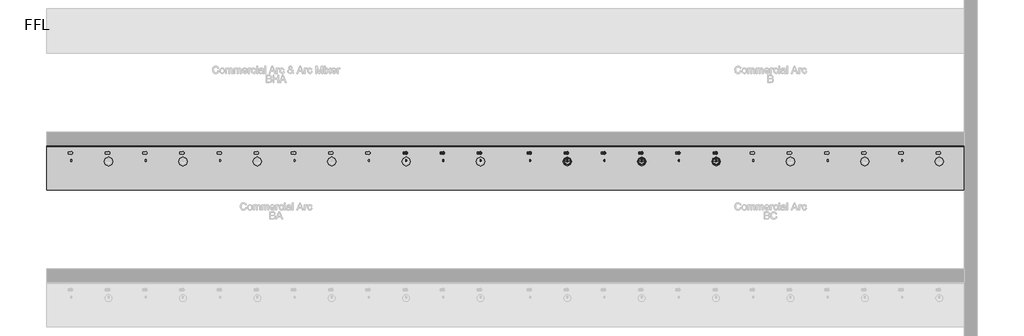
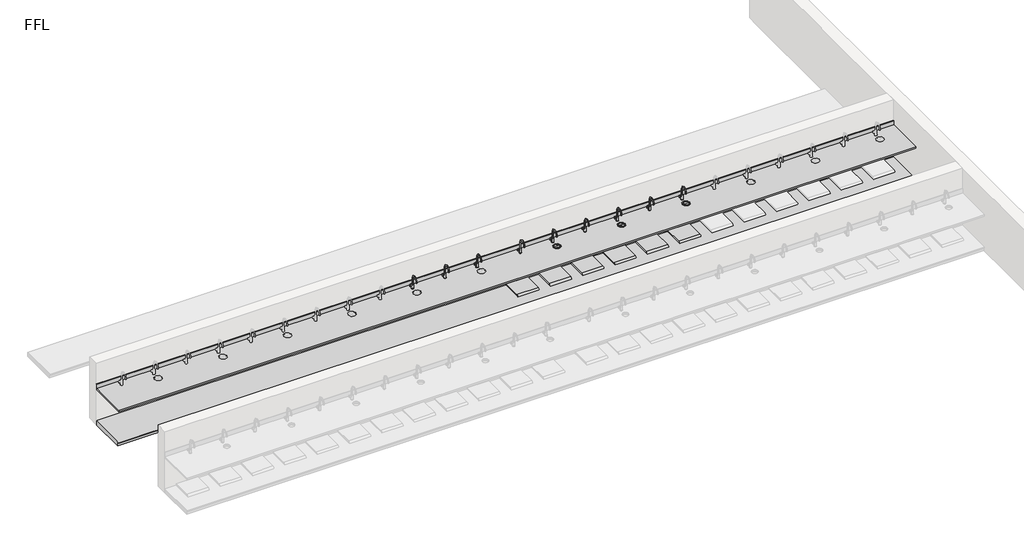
# One storey, part 5 of 10: 21 flow terminals, 2 furniture elements.
"""IFC4 building model written with IfcOpenShell, lengths in millimetres."""

from ifc_helpers import new_model, si_unit, frame, origin, place, context, project, spatial, polyline, circle_curve, transform, mapped, element, save
from ifc_brep_helpers import plane_surface, revolved_surface, advanced_brep
from components import flow_terminal_100_people_matte_black_0dc622b1, bcs_and_bc_6de74493, bright_chrome_743c02cf, bright_chrome_7ff5033f, generic_plinth_900mm_f287d53f

model = new_model("IFC4")

# Units and contexts
model_context = context("Model", 3, world=origin())
ifc_project = project(units=[si_unit("LENGTHUNIT", "METRE", prefix="MILLI")], contexts=[model_context])

# Site, building, storey
site = spatial("IfcSite", under=ifc_project)
building = spatial("IfcBuilding", under=site)
storey = spatial("IfcBuildingStorey", under=building, Name="FFL", Elevation=0.0)

# Flow terminals
placement = place(None, origin())
flow_terminal_100_people_matte_black_shape = flow_terminal_100_people_matte_black_0dc622b1(model_context)
element("IfcFlowTerminal", 1, ObjectType="PlumFixt_Zip Commercial_Arc_BA : 100 People - Nickel", at=placement, inside=storey, context=model_context, shape_type="MappedRepresentation", body=[
    mapped(flow_terminal_100_people_matte_black_shape, transform((279.2647071, 2062.7393304, 0.0), x_axis=(1.0, 0.0, 0.0), y_axis=(0.0, 1.0, 0.0), z_axis=(0.0, 0.0, 1.0))),
])
element("IfcFlowTerminal", 2, ObjectType="PlumFixt_Zip Commercial_Arc_BA : 100 People - Platinum", at=placement, inside=storey, context=model_context, shape_type="MappedRepresentation", body=[
    mapped(flow_terminal_100_people_matte_black_shape, transform((1029.2647071, 2062.7393304, 0.0), x_axis=(1.0, 0.0, 0.0), y_axis=(0.0, 1.0, 0.0), z_axis=(0.0, 0.0, 1.0))),
])
element("IfcFlowTerminal", 3, ObjectType="PlumFixt_Zip Commercial_Arc_BA : 100 People - Rose Gold", at=placement, inside=storey, context=model_context, shape_type="MappedRepresentation", body=[
    mapped(flow_terminal_100_people_matte_black_shape, transform((1779.2647071, 2062.7393304, 0.0), x_axis=(1.0, 0.0, 0.0), y_axis=(0.0, 1.0, 0.0), z_axis=(0.0, 0.0, 1.0))),
])
bcs_and_bc_shape = bcs_and_bc_6de74493(model_context)
element("IfcFlowTerminal", 4, ObjectType="z_PlumFixt_Zip_Vent Tray : BCS and BC", at=placement, inside=storey, context=model_context, shape_type="MappedRepresentation", body=[
    mapped(bcs_and_bc_shape, transform((2779.2647071, 2185.7393304, 100.0), x_axis=(1.0, 0.0, 0.0), y_axis=(0.0, 1.0, 0.0), z_axis=(0.0, 0.0, 1.0))),
])
element("IfcFlowTerminal", 5, ObjectType="z_PlumFixt_Zip_Vent Tray : BCS and BC", at=placement, inside=storey, context=model_context, shape_type="MappedRepresentation", body=[
    mapped(bcs_and_bc_shape, transform((3529.2647071, 2185.7393304, 100.0), x_axis=(1.0, 0.0, 0.0), y_axis=(0.0, 1.0, 0.0), z_axis=(0.0, 0.0, 1.0))),
])
element("IfcFlowTerminal", 6, ObjectType="z_PlumFixt_Zip_Vent Tray : BCS and BC", at=placement, inside=storey, context=model_context, shape_type="MappedRepresentation", body=[
    mapped(bcs_and_bc_shape, transform((4279.2647071, 2185.7393304, 100.0), x_axis=(1.0, 0.0, 0.0), y_axis=(0.0, 1.0, 0.0), z_axis=(0.0, 0.0, 1.0))),
])
element("IfcFlowTerminal", 7, ObjectType="z_PlumFixt_Zip_Vent Tray : BCS and BC", at=placement, inside=storey, context=model_context, shape_type="MappedRepresentation", body=[
    mapped(bcs_and_bc_shape, transform((5029.2647071, 2185.7393304, 100.0), x_axis=(1.0, 0.0, 0.0), y_axis=(0.0, 1.0, 0.0), z_axis=(0.0, 0.0, 1.0))),
])
element("IfcFlowTerminal", 8, ObjectType="z_PlumFixt_Zip_Vent Tray : BCS and BC", at=placement, inside=storey, context=model_context, shape_type="MappedRepresentation", body=[
    mapped(bcs_and_bc_shape, transform((5779.2647071, 2185.7393304, 100.0), x_axis=(1.0, 0.0, 0.0), y_axis=(0.0, 1.0, 0.0), z_axis=(0.0, 0.0, 1.0))),
])
element("IfcFlowTerminal", 9, ObjectType="z_PlumFixt_Zip_Vent Tray : BCS and BC", at=placement, inside=storey, context=model_context, shape_type="MappedRepresentation", body=[
    mapped(bcs_and_bc_shape, transform((6529.2647071, 2185.7393304, 100.0), x_axis=(1.0, 0.0, 0.0), y_axis=(0.0, 1.0, 0.0), z_axis=(0.0, 0.0, 1.0))),
])
bright_chrome_shape = bright_chrome_743c02cf(model_context)
element("IfcFlowTerminal", 10, ObjectType="z_PlumFixt_Zip_Font : Bright Chrome", at=placement, inside=storey, context=model_context, shape_type="MappedRepresentation", body=[
    mapped(bright_chrome_shape, transform((3529.2647071, 1991.2393304, 900.0), x_axis=(1.0000000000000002, 0.0, 0.0), y_axis=(0.0, 1.0000000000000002, 0.0), z_axis=(0.0, 0.0, 1.0))),
])
element("IfcFlowTerminal", 11, ObjectType="z_PlumFixt_Zip_Font : Bright Chrome", at=placement, inside=storey, context=model_context, shape_type="MappedRepresentation", body=[
    mapped(bright_chrome_shape, transform((5029.2647071, 1991.2393304, 900.0), x_axis=(1.0000000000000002, 0.0, 0.0), y_axis=(0.0, 1.0000000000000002, 0.0), z_axis=(0.0, 0.0, 1.0))),
])
element("IfcFlowTerminal", 12, ObjectType="z_PlumFixt_Zip_Font : Bright Chrome", at=placement, inside=storey, context=model_context, shape_type="MappedRepresentation", body=[
    mapped(bright_chrome_shape, transform((6529.2647071, 1991.2393304, 900.0), x_axis=(1.0000000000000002, 0.0, 0.0), y_axis=(0.0, 1.0000000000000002, 0.0), z_axis=(0.0, 0.0, 1.0))),
])
bright_chrome_2_shape = bright_chrome_7ff5033f(model_context)
element("IfcFlowTerminal", 13, ObjectType="z_PlumFixt_Zip_Arc : Bright Chrome", at=placement, inside=storey, context=model_context, shape_type="MappedRepresentation", body=[
    mapped(bright_chrome_2_shape, transform((2762.2647071, 2090.7393304, 900.0), x_axis=(1.0000000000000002, 0.0, 0.0), y_axis=(0.0, 1.0000000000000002, 0.0), z_axis=(0.0, 0.0, 1.0))),
])
element("IfcFlowTerminal", 14, ObjectType="z_PlumFixt_Zip_Arc : Brushed Chrome", at=placement, inside=storey, context=model_context, shape_type="MappedRepresentation", body=[
    mapped(bright_chrome_2_shape, transform((3512.2647071, 2090.7393304, 900.0), x_axis=(1.0000000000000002, 0.0, 0.0), y_axis=(0.0, 1.0000000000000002, 0.0), z_axis=(0.0, 0.0, 1.0))),
])
element("IfcFlowTerminal", 15, ObjectType="z_PlumFixt_Zip_Arc : Brushed Gold", at=placement, inside=storey, context=model_context, shape_type="MappedRepresentation", body=[
    mapped(bright_chrome_2_shape, transform((4262.2647071, 2090.7393304, 900.0), x_axis=(1.0000000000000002, 0.0, 0.0), y_axis=(0.0, 1.0000000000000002, 0.0), z_axis=(0.0, 0.0, 1.0))),
])
element("IfcFlowTerminal", 16, ObjectType="z_PlumFixt_Zip_Arc : Brushed Nickel", at=placement, inside=storey, context=model_context, shape_type="MappedRepresentation", body=[
    mapped(bright_chrome_2_shape, transform((5012.2647071, 2090.7393304, 900.0), x_axis=(1.0000000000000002, 0.0, 0.0), y_axis=(0.0, 1.0000000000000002, 0.0), z_axis=(0.0, 0.0, 1.0))),
])
element("IfcFlowTerminal", 17, ObjectType="z_PlumFixt_Zip_Arc : Brushed Rose Gold", at=placement, inside=storey, context=model_context, shape_type="MappedRepresentation", body=[
    mapped(bright_chrome_2_shape, transform((5762.2647071, 2090.7393304, 900.0), x_axis=(1.0000000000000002, 0.0, 0.0), y_axis=(0.0, 1.0000000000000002, 0.0), z_axis=(0.0, 0.0, 1.0))),
])
element("IfcFlowTerminal", 18, ObjectType="z_PlumFixt_Zip_Arc : Gloss Black", at=placement, inside=storey, context=model_context, shape_type="MappedRepresentation", body=[
    mapped(bright_chrome_2_shape, transform((6512.2647071, 2090.7393304, 900.0), x_axis=(1.0000000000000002, 0.0, 0.0), y_axis=(0.0, 1.0000000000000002, 0.0), z_axis=(0.0, 0.0, 1.0))),
])
element("IfcFlowTerminal", 19, ObjectType="z_PlumFixt_Zip_Arc : Nickel", at=placement, inside=storey, context=model_context, shape_type="MappedRepresentation", body=[
    mapped(bright_chrome_2_shape, transform((262.2647071, 2090.7393304, 900.0), x_axis=(1.0000000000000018, 0.0, 0.0), y_axis=(0.0, 1.0000000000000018, 0.0), z_axis=(0.0, 0.0, 1.0))),
])
element("IfcFlowTerminal", 20, ObjectType="z_PlumFixt_Zip_Arc : Platinum", at=placement, inside=storey, context=model_context, shape_type="MappedRepresentation", body=[
    mapped(bright_chrome_2_shape, transform((1012.2647071, 2090.7393304, 900.0), x_axis=(1.0000000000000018, 0.0, 0.0), y_axis=(0.0, 1.0000000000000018, 0.0), z_axis=(0.0, 0.0, 1.0))),
])
element("IfcFlowTerminal", 21, ObjectType="z_PlumFixt_Zip_Arc : Rose Gold", at=placement, inside=storey, context=model_context, shape_type="MappedRepresentation", body=[
    mapped(bright_chrome_2_shape, transform((1762.2647071, 2090.7393304, 900.0), x_axis=(1.0000000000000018, 0.0, 0.0), y_axis=(0.0, 1.0000000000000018, 0.0), z_axis=(0.0, 0.0, 1.0))),
])

# Furniture
element("IfcFurniture", 22, ObjectType="Counter Top : 900mm Depth", at=placement, inside=storey, context=model_context, shape_type="AdvancedBrep", body=[
    advanced_brep(
    [(-6969.7352929, 1428.2393304, 900.0), (11530.2647071, 1428.2393304, 900.0), (11530.2647071, 2309.1893304, 900.0), (-6969.7352929, 2309.1893304, 900.0), (-6493.7352929, 2178.2393304, 900.0), (-6445.7352929, 2178.2393304, 900.0), (2756.2647071, 2178.2393304, 900.0), (2804.2647071, 2178.2393304, 900.0), (-5743.7352929, 2178.2393304, 900.0), (-5695.7352929, 2178.2393304, 900.0), (-5651.5352929, 2006.2496462, 900.0), (-5787.9352929, 2006.2496462, 900.0), (-4993.7352929, 2178.2393304, 900.0), (-4945.7352929, 2178.2393304, 900.0), (-4243.7352929, 2178.2393304, 900.0), (-4195.7352929, 2178.2393304, 900.0), (-4151.5352929, 2006.2496462, 900.0), (-4287.9352929, 2006.2496462, 900.0), (-3493.7352929, 2178.2393304, 900.0), (-3445.7352929, 2178.2393304, 900.0), (-1993.7352929, 2178.2393304, 900.0), (-1945.7352929, 2178.2393304, 900.0), (-1243.7352929, 2178.2393304, 900.0), (-1195.7352929, 2178.2393304, 900.0), (-1151.5352929, 2006.2496462, 900.0), (-1287.9352929, 2006.2496462, 900.0), (-493.7352929, 2178.2393304, 900.0), (-445.7352929, 2178.2393304, 900.0), (256.2647071, 2178.2393304, 900.0), (304.2647071, 2178.2393304, 900.0), (348.4647071, 2006.2496462, 900.0), (212.0647071, 2006.2496462, 900.0), (1006.2647071, 2178.2393304, 900.0), (1054.2647071, 2178.2393304, 900.0), (1756.2647071, 2178.2393304, 900.0), (1804.2647071, 2178.2393304, 900.0), (1848.4647071, 2006.2496462, 900.0), (1712.0647071, 2006.2496462, 900.0), (3506.2647071, 2178.2393304, 900.0), (3554.2647071, 2178.2393304, 900.0), (3598.4647071, 2006.2496462, 900.0), (3462.0647071, 2006.2496462, 900.0), (4256.2647071, 2178.2393304, 900.0), (4304.2647071, 2178.2393304, 900.0), (5006.2647071, 2178.2393304, 900.0), (5054.2647071, 2178.2393304, 900.0), (5098.4647071, 2006.2496462, 900.0), (4962.0647071, 2006.2496462, 900.0), (5756.2647071, 2178.2393304, 900.0), (5804.2647071, 2178.2393304, 900.0), (11006.2647071, 2178.2393304, 900.0), (11054.2647071, 2178.2393304, 900.0), (11098.4647071, 2006.2496462, 900.0), (10962.0647071, 2006.2496462, 900.0), (10256.2647071, 2178.2393304, 900.0), (10304.2647071, 2178.2393304, 900.0), (9506.2647071, 2178.2393304, 900.0), (9554.2647071, 2178.2393304, 900.0), (9598.4647071, 2006.2496462, 900.0), (9462.0647071, 2006.2496462, 900.0), (8756.2647071, 2178.2393304, 900.0), (8804.2647071, 2178.2393304, 900.0), (8006.2647071, 2178.2393304, 900.0), (8054.2647071, 2178.2393304, 900.0), (8098.4647071, 2006.2496462, 900.0), (7962.0647071, 2006.2496462, 900.0), (7256.2647071, 2178.2393304, 900.0), (7304.2647071, 2178.2393304, 900.0), (6506.2647071, 2178.2393304, 900.0), (6554.2647071, 2178.2393304, 900.0), (6598.4647071, 2006.2496462, 900.0), (6462.0647071, 2006.2496462, 900.0), (-2743.7352929, 2178.2393304, 900.0), (-2695.7352929, 2178.2393304, 900.0), (-2651.5352929, 2006.2496462, 900.0), (-2787.9352929, 2006.2496462, 900.0), (11530.2647071, 2328.2393304, 860.0), (11530.2647071, 1428.2393304, 860.0), (-6969.7352929, 1428.2393304, 860.0), (-6969.7352929, 2328.2393304, 860.0), (-6445.7352929, 2178.2393304, 860.0), (-6493.7352929, 2178.2393304, 860.0), (2804.2647071, 2178.2393304, 860.0), (2756.2647071, 2178.2393304, 860.0), (-5695.7352929, 2178.2393304, 860.0), (-5743.7352929, 2178.2393304, 860.0), (-5787.9352929, 2006.2496462, 860.0), (-5651.5352929, 2006.2496462, 860.0), (-4945.7352929, 2178.2393304, 860.0), (-4993.7352929, 2178.2393304, 860.0), (-4195.7352929, 2178.2393304, 860.0), (-4243.7352929, 2178.2393304, 860.0), (-4287.9352929, 2006.2496462, 860.0), (-4151.5352929, 2006.2496462, 860.0), (-3445.7352929, 2178.2393304, 860.0), (-3493.7352929, 2178.2393304, 860.0), (-1945.7352929, 2178.2393304, 860.0), (-1993.7352929, 2178.2393304, 860.0), (-1195.7352929, 2178.2393304, 860.0), (-1243.7352929, 2178.2393304, 860.0), (-1287.9352929, 2006.2496462, 860.0), (-1151.5352929, 2006.2496462, 860.0), (-445.7352929, 2178.2393304, 860.0), (-493.7352929, 2178.2393304, 860.0), (304.2647071, 2178.2393304, 860.0), (256.2647071, 2178.2393304, 860.0), (212.0647071, 2006.2496462, 860.0), (348.4647071, 2006.2496462, 860.0), (1054.2647071, 2178.2393304, 860.0), (1006.2647071, 2178.2393304, 860.0), (1804.2647071, 2178.2393304, 860.0), (1756.2647071, 2178.2393304, 860.0), (1712.0647071, 2006.2496462, 860.0), (1848.4647071, 2006.2496462, 860.0), (3554.2647071, 2178.2393304, 860.0), (3506.2647071, 2178.2393304, 860.0), (3462.0647071, 2006.2496462, 860.0), (3598.4647071, 2006.2496462, 860.0), (4304.2647071, 2178.2393304, 860.0), (4256.2647071, 2178.2393304, 860.0), (5054.2647071, 2178.2393304, 860.0), (5006.2647071, 2178.2393304, 860.0), (4962.0647071, 2006.2496462, 860.0), (5098.4647071, 2006.2496462, 860.0), (5804.2647071, 2178.2393304, 860.0), (5756.2647071, 2178.2393304, 860.0), (11054.2647071, 2178.2393304, 860.0), (11006.2647071, 2178.2393304, 860.0), (10962.0647071, 2006.2496462, 860.0), (11098.4647071, 2006.2496462, 860.0), (10304.2647071, 2178.2393304, 860.0), (10256.2647071, 2178.2393304, 860.0), (9554.2647071, 2178.2393304, 860.0), (9506.2647071, 2178.2393304, 860.0), (9462.0647071, 2006.2496462, 860.0), (9598.4647071, 2006.2496462, 860.0), (8804.2647071, 2178.2393304, 860.0), (8756.2647071, 2178.2393304, 860.0), (8054.2647071, 2178.2393304, 860.0), (8006.2647071, 2178.2393304, 860.0), (7962.0647071, 2006.2496462, 860.0), (8098.4647071, 2006.2496462, 860.0), (7304.2647071, 2178.2393304, 860.0), (7256.2647071, 2178.2393304, 860.0), (6554.2647071, 2178.2393304, 860.0), (6506.2647071, 2178.2393304, 860.0), (6462.0647071, 2006.2496462, 860.0), (6598.4647071, 2006.2496462, 860.0), (-2695.7352929, 2178.2393304, 860.0), (-2743.7352929, 2178.2393304, 860.0), (-2787.9352929, 2006.2496462, 860.0), (-2651.5352929, 2006.2496462, 860.0), (-6969.7352929, 2328.2393304, 1001.6), (11530.2647071, 2328.2393304, 1001.6), (-6969.7352929, 2309.1893304, 1001.6), (11530.2647071, 2309.1893304, 1001.6)],
    [
        (0, 1),
        (1, 2),
        (2, 3),
        (3, 0),
        (4, 5, circle_curve(frame((-6469.7352929, 2178.2393304, 900.0), z_axis=(0.0, 0.0, -1.0), x_axis=(-1.0000000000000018, 0.0, 0.0)), 24.0)),
        (5, 4, circle_curve(frame((-6469.7352929, 2178.2393304, 900.0), z_axis=(0.0, 0.0, -1.0), x_axis=(-1.0000000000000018, 0.0, 0.0)), 24.0)),
        (6, 7, circle_curve(frame((2780.2647071, 2178.2393304, 900.0), z_axis=(0.0, 0.0, -1.0), x_axis=(-1.0000000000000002, 0.0, 0.0)), 24.0)),
        (7, 6, circle_curve(frame((2780.2647071, 2178.2393304, 900.0), z_axis=(0.0, 0.0, -1.0), x_axis=(-1.0000000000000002, 0.0, 0.0)), 24.0)),
        (8, 9, circle_curve(frame((-5719.7352929, 2178.2393304, 900.0), z_axis=(0.0, 0.0, -1.0), x_axis=(-1.0000000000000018, 0.0, 0.0)), 24.0)),
        (9, 8, circle_curve(frame((-5719.7352929, 2178.2393304, 900.0), z_axis=(0.0, 0.0, -1.0), x_axis=(-1.0000000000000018, 0.0, 0.0)), 24.0)),
        (10, 11, circle_curve(frame((-5719.7352929, 2006.2496462, 900.0), z_axis=(0.0, 0.0, -1.0), x_axis=(-1.0000000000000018, 0.0, 0.0)), 68.2)),
        (11, 10, circle_curve(frame((-5719.7352929, 2006.2496462, 900.0), z_axis=(0.0, 0.0, -1.0), x_axis=(-1.0000000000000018, 0.0, 0.0)), 68.2)),
        (12, 13, circle_curve(frame((-4969.7352929, 2178.2393304, 900.0), z_axis=(0.0, 0.0, -1.0), x_axis=(-1.0000000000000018, 0.0, 0.0)), 24.0)),
        (13, 12, circle_curve(frame((-4969.7352929, 2178.2393304, 900.0), z_axis=(0.0, 0.0, -1.0), x_axis=(-1.0000000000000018, 0.0, 0.0)), 24.0)),
        (14, 15, circle_curve(frame((-4219.7352929, 2178.2393304, 900.0), z_axis=(0.0, 0.0, -1.0), x_axis=(-1.0000000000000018, 0.0, 0.0)), 24.0)),
        (15, 14, circle_curve(frame((-4219.7352929, 2178.2393304, 900.0), z_axis=(0.0, 0.0, -1.0), x_axis=(-1.0000000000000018, 0.0, 0.0)), 24.0)),
        (16, 17, circle_curve(frame((-4219.7352929, 2006.2496462, 900.0), z_axis=(0.0, 0.0, -1.0), x_axis=(-1.0000000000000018, 0.0, 0.0)), 68.2)),
        (17, 16, circle_curve(frame((-4219.7352929, 2006.2496462, 900.0), z_axis=(0.0, 0.0, -1.0), x_axis=(-1.0000000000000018, 0.0, 0.0)), 68.2)),
        (18, 19, circle_curve(frame((-3469.7352929, 2178.2393304, 900.0), z_axis=(0.0, 0.0, -1.0), x_axis=(-1.0000000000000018, 0.0, 0.0)), 24.0)),
        (19, 18, circle_curve(frame((-3469.7352929, 2178.2393304, 900.0), z_axis=(0.0, 0.0, -1.0), x_axis=(-1.0000000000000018, 0.0, 0.0)), 24.0)),
        (20, 21, circle_curve(frame((-1969.7352929, 2178.2393304, 900.0), z_axis=(0.0, 0.0, -1.0), x_axis=(-1.0000000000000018, 0.0, 0.0)), 24.0)),
        (21, 20, circle_curve(frame((-1969.7352929, 2178.2393304, 900.0), z_axis=(0.0, 0.0, -1.0), x_axis=(-1.0000000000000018, 0.0, 0.0)), 24.0)),
        (22, 23, circle_curve(frame((-1219.7352929, 2178.2393304, 900.0), z_axis=(0.0, 0.0, -1.0), x_axis=(-1.0000000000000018, 0.0, 0.0)), 24.0)),
        (23, 22, circle_curve(frame((-1219.7352929, 2178.2393304, 900.0), z_axis=(0.0, 0.0, -1.0), x_axis=(-1.0000000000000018, 0.0, 0.0)), 24.0)),
        (24, 25, circle_curve(frame((-1219.7352929, 2006.2496462, 900.0), z_axis=(0.0, 0.0, -1.0), x_axis=(-1.0000000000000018, 0.0, 0.0)), 68.2)),
        (25, 24, circle_curve(frame((-1219.7352929, 2006.2496462, 900.0), z_axis=(0.0, 0.0, -1.0), x_axis=(-1.0000000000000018, 0.0, 0.0)), 68.2)),
        (26, 27, circle_curve(frame((-469.7352929, 2178.2393304, 900.0), z_axis=(0.0, 0.0, -1.0), x_axis=(-1.0000000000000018, 0.0, 0.0)), 24.0)),
        (27, 26, circle_curve(frame((-469.7352929, 2178.2393304, 900.0), z_axis=(0.0, 0.0, -1.0), x_axis=(-1.0000000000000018, 0.0, 0.0)), 24.0)),
        (28, 29, circle_curve(frame((280.2647071, 2178.2393304, 900.0), z_axis=(0.0, 0.0, -1.0), x_axis=(-1.0000000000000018, 0.0, 0.0)), 24.0)),
        (29, 28, circle_curve(frame((280.2647071, 2178.2393304, 900.0), z_axis=(0.0, 0.0, -1.0), x_axis=(-1.0000000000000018, 0.0, 0.0)), 24.0)),
        (30, 31, circle_curve(frame((280.2647071, 2006.2496462, 900.0), z_axis=(0.0, 0.0, -1.0), x_axis=(-1.0000000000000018, 0.0, 0.0)), 68.2)),
        (31, 30, circle_curve(frame((280.2647071, 2006.2496462, 900.0), z_axis=(0.0, 0.0, -1.0), x_axis=(-1.0000000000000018, 0.0, 0.0)), 68.2)),
        (32, 33, circle_curve(frame((1030.2647071, 2178.2393304, 900.0), z_axis=(0.0, 0.0, -1.0), x_axis=(-1.0000000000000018, 0.0, 0.0)), 24.0)),
        (33, 32, circle_curve(frame((1030.2647071, 2178.2393304, 900.0), z_axis=(0.0, 0.0, -1.0), x_axis=(-1.0000000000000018, 0.0, 0.0)), 24.0)),
        (34, 35, circle_curve(frame((1780.2647071, 2178.2393304, 900.0), z_axis=(0.0, 0.0, -1.0), x_axis=(-1.0000000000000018, 0.0, 0.0)), 24.0)),
        (35, 34, circle_curve(frame((1780.2647071, 2178.2393304, 900.0), z_axis=(0.0, 0.0, -1.0), x_axis=(-1.0000000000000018, 0.0, 0.0)), 24.0)),
        (36, 37, circle_curve(frame((1780.2647071, 2006.2496462, 900.0), z_axis=(0.0, 0.0, -1.0), x_axis=(-1.0000000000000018, 0.0, 0.0)), 68.2)),
        (37, 36, circle_curve(frame((1780.2647071, 2006.2496462, 900.0), z_axis=(0.0, 0.0, -1.0), x_axis=(-1.0000000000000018, 0.0, 0.0)), 68.2)),
        (38, 39, circle_curve(frame((3530.2647071, 2178.2393304, 900.0), z_axis=(0.0, 0.0, -1.0), x_axis=(-1.0000000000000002, 0.0, 0.0)), 24.0)),
        (39, 38, circle_curve(frame((3530.2647071, 2178.2393304, 900.0), z_axis=(0.0, 0.0, -1.0), x_axis=(-1.0000000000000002, 0.0, 0.0)), 24.0)),
        (40, 41, circle_curve(frame((3530.2647071, 2006.2496462, 900.0), z_axis=(0.0, 0.0, -1.0), x_axis=(-1.0000000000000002, 0.0, 0.0)), 68.2)),
        (41, 40, circle_curve(frame((3530.2647071, 2006.2496462, 900.0), z_axis=(0.0, 0.0, -1.0), x_axis=(-1.0000000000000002, 0.0, 0.0)), 68.2)),
        (42, 43, circle_curve(frame((4280.2647071, 2178.2393304, 900.0), z_axis=(0.0, 0.0, -1.0), x_axis=(-1.0000000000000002, 0.0, 0.0)), 24.0)),
        (43, 42, circle_curve(frame((4280.2647071, 2178.2393304, 900.0), z_axis=(0.0, 0.0, -1.0), x_axis=(-1.0000000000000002, 0.0, 0.0)), 24.0)),
        (44, 45, circle_curve(frame((5030.2647071, 2178.2393304, 900.0), z_axis=(0.0, 0.0, -1.0), x_axis=(-1.0000000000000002, 0.0, 0.0)), 24.0)),
        (45, 44, circle_curve(frame((5030.2647071, 2178.2393304, 900.0), z_axis=(0.0, 0.0, -1.0), x_axis=(-1.0000000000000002, 0.0, 0.0)), 24.0)),
        (46, 47, circle_curve(frame((5030.2647071, 2006.2496462, 900.0), z_axis=(0.0, 0.0, -1.0), x_axis=(-1.0000000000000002, 0.0, 0.0)), 68.2)),
        (47, 46, circle_curve(frame((5030.2647071, 2006.2496462, 900.0), z_axis=(0.0, 0.0, -1.0), x_axis=(-1.0000000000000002, 0.0, 0.0)), 68.2)),
        (48, 49, circle_curve(frame((5780.2647071, 2178.2393304, 900.0), z_axis=(0.0, 0.0, -1.0), x_axis=(-1.0000000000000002, 0.0, 0.0)), 24.0)),
        (49, 48, circle_curve(frame((5780.2647071, 2178.2393304, 900.0), z_axis=(0.0, 0.0, -1.0), x_axis=(-1.0000000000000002, 0.0, 0.0)), 24.0)),
        (50, 51, circle_curve(frame((11030.2647071, 2178.2393304, 900.0), z_axis=(0.0, 0.0, -1.0), x_axis=(-1.0000000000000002, 0.0, 0.0)), 24.0)),
        (51, 50, circle_curve(frame((11030.2647071, 2178.2393304, 900.0), z_axis=(0.0, 0.0, -1.0), x_axis=(-1.0000000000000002, 0.0, 0.0)), 24.0)),
        (52, 53, circle_curve(frame((11030.2647071, 2006.2496462, 900.0), z_axis=(0.0, 0.0, -1.0), x_axis=(-1.0000000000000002, 0.0, 0.0)), 68.2)),
        (53, 52, circle_curve(frame((11030.2647071, 2006.2496462, 900.0), z_axis=(0.0, 0.0, -1.0), x_axis=(-1.0000000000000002, 0.0, 0.0)), 68.2)),
        (54, 55, circle_curve(frame((10280.2647071, 2178.2393304, 900.0), z_axis=(0.0, 0.0, -1.0), x_axis=(-1.0000000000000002, 0.0, 0.0)), 24.0)),
        (55, 54, circle_curve(frame((10280.2647071, 2178.2393304, 900.0), z_axis=(0.0, 0.0, -1.0), x_axis=(-1.0000000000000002, 0.0, 0.0)), 24.0)),
        (56, 57, circle_curve(frame((9530.2647071, 2178.2393304, 900.0), z_axis=(0.0, 0.0, -1.0), x_axis=(-1.0000000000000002, 0.0, 0.0)), 24.0)),
        (57, 56, circle_curve(frame((9530.2647071, 2178.2393304, 900.0), z_axis=(0.0, 0.0, -1.0), x_axis=(-1.0000000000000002, 0.0, 0.0)), 24.0)),
        (58, 59, circle_curve(frame((9530.2647071, 2006.2496462, 900.0), z_axis=(0.0, 0.0, -1.0), x_axis=(-1.0000000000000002, 0.0, 0.0)), 68.2)),
        (59, 58, circle_curve(frame((9530.2647071, 2006.2496462, 900.0), z_axis=(0.0, 0.0, -1.0), x_axis=(-1.0000000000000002, 0.0, 0.0)), 68.2)),
        (60, 61, circle_curve(frame((8780.2647071, 2178.2393304, 900.0), z_axis=(0.0, 0.0, -1.0), x_axis=(-1.0000000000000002, 0.0, 0.0)), 24.0)),
        (61, 60, circle_curve(frame((8780.2647071, 2178.2393304, 900.0), z_axis=(0.0, 0.0, -1.0), x_axis=(-1.0000000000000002, 0.0, 0.0)), 24.0)),
        (62, 63, circle_curve(frame((8030.2647071, 2178.2393304, 900.0), z_axis=(0.0, 0.0, -1.0), x_axis=(-1.0000000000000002, 0.0, 0.0)), 24.0)),
        (63, 62, circle_curve(frame((8030.2647071, 2178.2393304, 900.0), z_axis=(0.0, 0.0, -1.0), x_axis=(-1.0000000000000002, 0.0, 0.0)), 24.0)),
        (64, 65, circle_curve(frame((8030.2647071, 2006.2496462, 900.0), z_axis=(0.0, 0.0, -1.0), x_axis=(-1.0000000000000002, 0.0, 0.0)), 68.2)),
        (65, 64, circle_curve(frame((8030.2647071, 2006.2496462, 900.0), z_axis=(0.0, 0.0, -1.0), x_axis=(-1.0000000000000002, 0.0, 0.0)), 68.2)),
        (66, 67, circle_curve(frame((7280.2647071, 2178.2393304, 900.0), z_axis=(0.0, 0.0, -1.0), x_axis=(-1.0000000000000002, 0.0, 0.0)), 24.0)),
        (67, 66, circle_curve(frame((7280.2647071, 2178.2393304, 900.0), z_axis=(0.0, 0.0, -1.0), x_axis=(-1.0000000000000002, 0.0, 0.0)), 24.0)),
        (68, 69, circle_curve(frame((6530.2647071, 2178.2393304, 900.0), z_axis=(0.0, 0.0, -1.0), x_axis=(-1.0000000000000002, 0.0, 0.0)), 24.0)),
        (69, 68, circle_curve(frame((6530.2647071, 2178.2393304, 900.0), z_axis=(0.0, 0.0, -1.0), x_axis=(-1.0000000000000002, 0.0, 0.0)), 24.0)),
        (70, 71, circle_curve(frame((6530.2647071, 2006.2496462, 900.0), z_axis=(0.0, 0.0, -1.0), x_axis=(-1.0000000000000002, 0.0, 0.0)), 68.2)),
        (71, 70, circle_curve(frame((6530.2647071, 2006.2496462, 900.0), z_axis=(0.0, 0.0, -1.0), x_axis=(-1.0000000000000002, 0.0, 0.0)), 68.2)),
        (72, 73, circle_curve(frame((-2719.7352929, 2178.2393304, 900.0), z_axis=(0.0, 0.0, -1.0), x_axis=(-1.0000000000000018, 0.0, 0.0)), 24.0)),
        (73, 72, circle_curve(frame((-2719.7352929, 2178.2393304, 900.0), z_axis=(0.0, 0.0, -1.0), x_axis=(-1.0000000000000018, 0.0, 0.0)), 24.0)),
        (74, 75, circle_curve(frame((-2719.7352929, 2006.2496462, 900.0), z_axis=(0.0, 0.0, -1.0), x_axis=(-1.0000000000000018, 0.0, 0.0)), 68.2)),
        (75, 74, circle_curve(frame((-2719.7352929, 2006.2496462, 900.0), z_axis=(0.0, 0.0, -1.0), x_axis=(-1.0000000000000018, 0.0, 0.0)), 68.2)),
        (76, 77),
        (77, 78),
        (78, 79),
        (79, 76),
        (80, 81, circle_curve(frame((-6469.7352929, 2178.2393304, 860.0), z_axis=(0.0, 0.0, 1.0), x_axis=(-1.0000000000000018, 0.0, 0.0)), 24.0)),
        (81, 80, circle_curve(frame((-6469.7352929, 2178.2393304, 860.0), z_axis=(0.0, 0.0, 1.0), x_axis=(-1.0000000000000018, 0.0, 0.0)), 24.0)),
        (82, 83, circle_curve(frame((2780.2647071, 2178.2393304, 860.0), z_axis=(0.0, 0.0, 1.0), x_axis=(-1.0000000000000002, 0.0, 0.0)), 24.0)),
        (83, 82, circle_curve(frame((2780.2647071, 2178.2393304, 860.0), z_axis=(0.0, 0.0, 1.0), x_axis=(-1.0000000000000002, 0.0, 0.0)), 24.0)),
        (84, 85, circle_curve(frame((-5719.7352929, 2178.2393304, 860.0), z_axis=(0.0, 0.0, 1.0), x_axis=(-1.0000000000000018, 0.0, 0.0)), 24.0)),
        (85, 84, circle_curve(frame((-5719.7352929, 2178.2393304, 860.0), z_axis=(0.0, 0.0, 1.0), x_axis=(-1.0000000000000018, 0.0, 0.0)), 24.0)),
        (86, 87, circle_curve(frame((-5719.7352929, 2006.2496462, 860.0), z_axis=(0.0, 0.0, 1.0), x_axis=(-1.0000000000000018, 0.0, 0.0)), 68.2)),
        (87, 86, circle_curve(frame((-5719.7352929, 2006.2496462, 860.0), z_axis=(0.0, 0.0, 1.0), x_axis=(-1.0000000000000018, 0.0, 0.0)), 68.2)),
        (88, 89, circle_curve(frame((-4969.7352929, 2178.2393304, 860.0), z_axis=(0.0, 0.0, 1.0), x_axis=(-1.0000000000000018, 0.0, 0.0)), 24.0)),
        (89, 88, circle_curve(frame((-4969.7352929, 2178.2393304, 860.0), z_axis=(0.0, 0.0, 1.0), x_axis=(-1.0000000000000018, 0.0, 0.0)), 24.0)),
        (90, 91, circle_curve(frame((-4219.7352929, 2178.2393304, 860.0), z_axis=(0.0, 0.0, 1.0), x_axis=(-1.0000000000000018, 0.0, 0.0)), 24.0)),
        (91, 90, circle_curve(frame((-4219.7352929, 2178.2393304, 860.0), z_axis=(0.0, 0.0, 1.0), x_axis=(-1.0000000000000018, 0.0, 0.0)), 24.0)),
        (92, 93, circle_curve(frame((-4219.7352929, 2006.2496462, 860.0), z_axis=(0.0, 0.0, 1.0), x_axis=(-1.0000000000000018, 0.0, 0.0)), 68.2)),
        (93, 92, circle_curve(frame((-4219.7352929, 2006.2496462, 860.0), z_axis=(0.0, 0.0, 1.0), x_axis=(-1.0000000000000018, 0.0, 0.0)), 68.2)),
        (94, 95, circle_curve(frame((-3469.7352929, 2178.2393304, 860.0), z_axis=(0.0, 0.0, 1.0), x_axis=(-1.0000000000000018, 0.0, 0.0)), 24.0)),
        (95, 94, circle_curve(frame((-3469.7352929, 2178.2393304, 860.0), z_axis=(0.0, 0.0, 1.0), x_axis=(-1.0000000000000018, 0.0, 0.0)), 24.0)),
        (96, 97, circle_curve(frame((-1969.7352929, 2178.2393304, 860.0), z_axis=(0.0, 0.0, 1.0), x_axis=(-1.0000000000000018, 0.0, 0.0)), 24.0)),
        (97, 96, circle_curve(frame((-1969.7352929, 2178.2393304, 860.0), z_axis=(0.0, 0.0, 1.0), x_axis=(-1.0000000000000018, 0.0, 0.0)), 24.0)),
        (98, 99, circle_curve(frame((-1219.7352929, 2178.2393304, 860.0), z_axis=(0.0, 0.0, 1.0), x_axis=(-1.0000000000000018, 0.0, 0.0)), 24.0)),
        (99, 98, circle_curve(frame((-1219.7352929, 2178.2393304, 860.0), z_axis=(0.0, 0.0, 1.0), x_axis=(-1.0000000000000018, 0.0, 0.0)), 24.0)),
        (100, 101, circle_curve(frame((-1219.7352929, 2006.2496462, 860.0), z_axis=(0.0, 0.0, 1.0), x_axis=(-1.0000000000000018, 0.0, 0.0)), 68.2)),
        (101, 100, circle_curve(frame((-1219.7352929, 2006.2496462, 860.0), z_axis=(0.0, 0.0, 1.0), x_axis=(-1.0000000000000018, 0.0, 0.0)), 68.2)),
        (102, 103, circle_curve(frame((-469.7352929, 2178.2393304, 860.0), z_axis=(0.0, 0.0, 1.0), x_axis=(-1.0000000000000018, 0.0, 0.0)), 24.0)),
        (103, 102, circle_curve(frame((-469.7352929, 2178.2393304, 860.0), z_axis=(0.0, 0.0, 1.0), x_axis=(-1.0000000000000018, 0.0, 0.0)), 24.0)),
        (104, 105, circle_curve(frame((280.2647071, 2178.2393304, 860.0), z_axis=(0.0, 0.0, 1.0), x_axis=(-1.0000000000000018, 0.0, 0.0)), 24.0)),
        (105, 104, circle_curve(frame((280.2647071, 2178.2393304, 860.0), z_axis=(0.0, 0.0, 1.0), x_axis=(-1.0000000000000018, 0.0, 0.0)), 24.0)),
        (106, 107, circle_curve(frame((280.2647071, 2006.2496462, 860.0), z_axis=(0.0, 0.0, 1.0), x_axis=(-1.0000000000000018, 0.0, 0.0)), 68.2)),
        (107, 106, circle_curve(frame((280.2647071, 2006.2496462, 860.0), z_axis=(0.0, 0.0, 1.0), x_axis=(-1.0000000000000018, 0.0, 0.0)), 68.2)),
        (108, 109, circle_curve(frame((1030.2647071, 2178.2393304, 860.0), z_axis=(0.0, 0.0, 1.0), x_axis=(-1.0000000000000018, 0.0, 0.0)), 24.0)),
        (109, 108, circle_curve(frame((1030.2647071, 2178.2393304, 860.0), z_axis=(0.0, 0.0, 1.0), x_axis=(-1.0000000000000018, 0.0, 0.0)), 24.0)),
        (110, 111, circle_curve(frame((1780.2647071, 2178.2393304, 860.0), z_axis=(0.0, 0.0, 1.0), x_axis=(-1.0000000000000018, 0.0, 0.0)), 24.0)),
        (111, 110, circle_curve(frame((1780.2647071, 2178.2393304, 860.0), z_axis=(0.0, 0.0, 1.0), x_axis=(-1.0000000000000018, 0.0, 0.0)), 24.0)),
        (112, 113, circle_curve(frame((1780.2647071, 2006.2496462, 860.0), z_axis=(0.0, 0.0, 1.0), x_axis=(-1.0000000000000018, 0.0, 0.0)), 68.2)),
        (113, 112, circle_curve(frame((1780.2647071, 2006.2496462, 860.0), z_axis=(0.0, 0.0, 1.0), x_axis=(-1.0000000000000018, 0.0, 0.0)), 68.2)),
        (114, 115, circle_curve(frame((3530.2647071, 2178.2393304, 860.0), z_axis=(0.0, 0.0, 1.0), x_axis=(-1.0000000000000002, 0.0, 0.0)), 24.0)),
        (115, 114, circle_curve(frame((3530.2647071, 2178.2393304, 860.0), z_axis=(0.0, 0.0, 1.0), x_axis=(-1.0000000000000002, 0.0, 0.0)), 24.0)),
        (116, 117, circle_curve(frame((3530.2647071, 2006.2496462, 860.0), z_axis=(0.0, 0.0, 1.0), x_axis=(-1.0000000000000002, 0.0, 0.0)), 68.2)),
        (117, 116, circle_curve(frame((3530.2647071, 2006.2496462, 860.0), z_axis=(0.0, 0.0, 1.0), x_axis=(-1.0000000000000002, 0.0, 0.0)), 68.2)),
        (118, 119, circle_curve(frame((4280.2647071, 2178.2393304, 860.0), z_axis=(0.0, 0.0, 1.0), x_axis=(-1.0000000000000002, 0.0, 0.0)), 24.0)),
        (119, 118, circle_curve(frame((4280.2647071, 2178.2393304, 860.0), z_axis=(0.0, 0.0, 1.0), x_axis=(-1.0000000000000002, 0.0, 0.0)), 24.0)),
        (120, 121, circle_curve(frame((5030.2647071, 2178.2393304, 860.0), z_axis=(0.0, 0.0, 1.0), x_axis=(-1.0000000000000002, 0.0, 0.0)), 24.0)),
        (121, 120, circle_curve(frame((5030.2647071, 2178.2393304, 860.0), z_axis=(0.0, 0.0, 1.0), x_axis=(-1.0000000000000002, 0.0, 0.0)), 24.0)),
        (122, 123, circle_curve(frame((5030.2647071, 2006.2496462, 860.0), z_axis=(0.0, 0.0, 1.0), x_axis=(-1.0000000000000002, 0.0, 0.0)), 68.2)),
        (123, 122, circle_curve(frame((5030.2647071, 2006.2496462, 860.0), z_axis=(0.0, 0.0, 1.0), x_axis=(-1.0000000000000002, 0.0, 0.0)), 68.2)),
        (124, 125, circle_curve(frame((5780.2647071, 2178.2393304, 860.0), z_axis=(0.0, 0.0, 1.0), x_axis=(-1.0000000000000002, 0.0, 0.0)), 24.0)),
        (125, 124, circle_curve(frame((5780.2647071, 2178.2393304, 860.0), z_axis=(0.0, 0.0, 1.0), x_axis=(-1.0000000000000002, 0.0, 0.0)), 24.0)),
        (126, 127, circle_curve(frame((11030.2647071, 2178.2393304, 860.0), z_axis=(0.0, 0.0, 1.0), x_axis=(-1.0000000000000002, 0.0, 0.0)), 24.0)),
        (127, 126, circle_curve(frame((11030.2647071, 2178.2393304, 860.0), z_axis=(0.0, 0.0, 1.0), x_axis=(-1.0000000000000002, 0.0, 0.0)), 24.0)),
        (128, 129, circle_curve(frame((11030.2647071, 2006.2496462, 860.0), z_axis=(0.0, 0.0, 1.0), x_axis=(-1.0000000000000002, 0.0, 0.0)), 68.2)),
        (129, 128, circle_curve(frame((11030.2647071, 2006.2496462, 860.0), z_axis=(0.0, 0.0, 1.0), x_axis=(-1.0000000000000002, 0.0, 0.0)), 68.2)),
        (130, 131, circle_curve(frame((10280.2647071, 2178.2393304, 860.0), z_axis=(0.0, 0.0, 1.0), x_axis=(-1.0000000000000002, 0.0, 0.0)), 24.0)),
        (131, 130, circle_curve(frame((10280.2647071, 2178.2393304, 860.0), z_axis=(0.0, 0.0, 1.0), x_axis=(-1.0000000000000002, 0.0, 0.0)), 24.0)),
        (132, 133, circle_curve(frame((9530.2647071, 2178.2393304, 860.0), z_axis=(0.0, 0.0, 1.0), x_axis=(-1.0000000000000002, 0.0, 0.0)), 24.0)),
        (133, 132, circle_curve(frame((9530.2647071, 2178.2393304, 860.0), z_axis=(0.0, 0.0, 1.0), x_axis=(-1.0000000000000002, 0.0, 0.0)), 24.0)),
        (134, 135, circle_curve(frame((9530.2647071, 2006.2496462, 860.0), z_axis=(0.0, 0.0, 1.0), x_axis=(-1.0000000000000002, 0.0, 0.0)), 68.2)),
        (135, 134, circle_curve(frame((9530.2647071, 2006.2496462, 860.0), z_axis=(0.0, 0.0, 1.0), x_axis=(-1.0000000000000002, 0.0, 0.0)), 68.2)),
        (136, 137, circle_curve(frame((8780.2647071, 2178.2393304, 860.0), z_axis=(0.0, 0.0, 1.0), x_axis=(-1.0000000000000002, 0.0, 0.0)), 24.0)),
        (137, 136, circle_curve(frame((8780.2647071, 2178.2393304, 860.0), z_axis=(0.0, 0.0, 1.0), x_axis=(-1.0000000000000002, 0.0, 0.0)), 24.0)),
        (138, 139, circle_curve(frame((8030.2647071, 2178.2393304, 860.0), z_axis=(0.0, 0.0, 1.0), x_axis=(-1.0000000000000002, 0.0, 0.0)), 24.0)),
        (139, 138, circle_curve(frame((8030.2647071, 2178.2393304, 860.0), z_axis=(0.0, 0.0, 1.0), x_axis=(-1.0000000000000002, 0.0, 0.0)), 24.0)),
        (140, 141, circle_curve(frame((8030.2647071, 2006.2496462, 860.0), z_axis=(0.0, 0.0, 1.0), x_axis=(-1.0000000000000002, 0.0, 0.0)), 68.2)),
        (141, 140, circle_curve(frame((8030.2647071, 2006.2496462, 860.0), z_axis=(0.0, 0.0, 1.0), x_axis=(-1.0000000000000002, 0.0, 0.0)), 68.2)),
        (142, 143, circle_curve(frame((7280.2647071, 2178.2393304, 860.0), z_axis=(0.0, 0.0, 1.0), x_axis=(-1.0000000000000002, 0.0, 0.0)), 24.0)),
        (143, 142, circle_curve(frame((7280.2647071, 2178.2393304, 860.0), z_axis=(0.0, 0.0, 1.0), x_axis=(-1.0000000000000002, 0.0, 0.0)), 24.0)),
        (144, 145, circle_curve(frame((6530.2647071, 2178.2393304, 860.0), z_axis=(0.0, 0.0, 1.0), x_axis=(-1.0000000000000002, 0.0, 0.0)), 24.0)),
        (145, 144, circle_curve(frame((6530.2647071, 2178.2393304, 860.0), z_axis=(0.0, 0.0, 1.0), x_axis=(-1.0000000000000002, 0.0, 0.0)), 24.0)),
        (146, 147, circle_curve(frame((6530.2647071, 2006.2496462, 860.0), z_axis=(0.0, 0.0, 1.0), x_axis=(-1.0000000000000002, 0.0, 0.0)), 68.2)),
        (147, 146, circle_curve(frame((6530.2647071, 2006.2496462, 860.0), z_axis=(0.0, 0.0, 1.0), x_axis=(-1.0000000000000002, 0.0, 0.0)), 68.2)),
        (148, 149, circle_curve(frame((-2719.7352929, 2178.2393304, 860.0), z_axis=(0.0, 0.0, 1.0), x_axis=(-1.0000000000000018, 0.0, 0.0)), 24.0)),
        (149, 148, circle_curve(frame((-2719.7352929, 2178.2393304, 860.0), z_axis=(0.0, 0.0, 1.0), x_axis=(-1.0000000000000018, 0.0, 0.0)), 24.0)),
        (150, 151, circle_curve(frame((-2719.7352929, 2006.2496462, 860.0), z_axis=(0.0, 0.0, 1.0), x_axis=(-1.0000000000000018, 0.0, 0.0)), 68.2)),
        (151, 150, circle_curve(frame((-2719.7352929, 2006.2496462, 860.0), z_axis=(0.0, 0.0, 1.0), x_axis=(-1.0000000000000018, 0.0, 0.0)), 68.2)),
        (79, 152),
        (152, 153),
        (153, 76),
        (3, 154),
        (154, 152),
        (78, 0),
        (77, 1),
        (153, 155),
        (155, 2),
        (154, 155),
        (80, 5),
        (4, 81),
        (82, 7),
        (6, 83),
        (84, 9),
        (8, 85),
        (86, 11),
        (10, 87),
        (88, 13),
        (12, 89),
        (90, 15),
        (14, 91),
        (92, 17),
        (16, 93),
        (94, 19),
        (18, 95),
        (96, 21),
        (20, 97),
        (98, 23),
        (22, 99),
        (100, 25),
        (24, 101),
        (102, 27),
        (26, 103),
        (104, 29),
        (28, 105),
        (106, 31),
        (30, 107),
        (108, 33),
        (32, 109),
        (110, 35),
        (34, 111),
        (112, 37),
        (36, 113),
        (114, 39),
        (38, 115),
        (116, 41),
        (40, 117),
        (118, 43),
        (42, 119),
        (120, 45),
        (44, 121),
        (122, 47),
        (46, 123),
        (124, 49),
        (48, 125),
        (126, 51),
        (50, 127),
        (128, 53),
        (52, 129),
        (130, 55),
        (54, 131),
        (132, 57),
        (56, 133),
        (134, 59),
        (58, 135),
        (136, 61),
        (60, 137),
        (138, 63),
        (62, 139),
        (140, 65),
        (64, 141),
        (142, 67),
        (66, 143),
        (144, 69),
        (68, 145),
        (146, 71),
        (70, 147),
        (148, 73),
        (72, 149),
        (150, 75),
        (74, 151),
    ],
    [
        plane_surface(frame((-6969.7352929, 2328.2393304, 900.0), z_axis=(0.0, 0.0, 1.0), x_axis=(-1.0, 0.0, 0.0))),
        plane_surface(frame((-6969.7352929, 2328.2393304, 860.0), z_axis=(0.0, 0.0, -1.0), x_axis=(1.0, 0.0, 0.0))),
        plane_surface(frame((11530.2647071, 2328.2393304, 900.0), z_axis=(0.0, 1.0, 0.0), x_axis=(0.0, 0.0, -1.0))),
        plane_surface(frame((-6969.7352929, 2328.2393304, 900.0), z_axis=(-1.0, 0.0, 0.0), x_axis=(0.0, 0.0, -1.0))),
        plane_surface(frame((-6969.7352929, 1428.2393304, 900.0), z_axis=(0.0, -1.0, 0.0), x_axis=(0.0, 0.0, -1.0))),
        plane_surface(frame((11530.2647071, 1428.2393304, 900.0), z_axis=(1.0, 0.0, 0.0), x_axis=(0.0, 0.0, -1.0))),
        plane_surface(frame((-6969.7352929, 2328.2393304, 1001.6), z_axis=(0.0, 0.0, 1.0), x_axis=(0.0, -1.0, 0.0))),
        plane_surface(frame((-6969.7352929, 2309.1893304, 1001.6), z_axis=(0.0, -1.0, 0.0), x_axis=(0.0, 0.0, -1.0))),
        revolved_surface(polyline([(-6493.7352929, 2178.2393304, 900.0), (-6493.7352929, 2178.2393304, 860.0)]), (-6469.7352929, 2178.2393304, 850.0), (0.0, 0.0, 1.0)),
        revolved_surface(polyline([(2756.2647071, 2178.2393304, 900.0), (2756.2647071, 2178.2393304, 860.0)]), (2780.2647071, 2178.2393304, 850.0), (0.0, 0.0, 1.0)),
        revolved_surface(polyline([(-5743.7352929, 2178.2393304, 900.0), (-5743.7352929, 2178.2393304, 860.0)]), (-5719.7352929, 2178.2393304, 850.0), (0.0, 0.0, 1.0)),
        revolved_surface(polyline([(-5787.9352929, 2006.2496462, 900.0), (-5787.9352929, 2006.2496462, 860.0)]), (-5719.7352929, 2006.2496462, 850.0), (0.0, 0.0, 1.0)),
        revolved_surface(polyline([(-4993.7352929, 2178.2393304, 900.0), (-4993.7352929, 2178.2393304, 860.0)]), (-4969.7352929, 2178.2393304, 850.0), (0.0, 0.0, 1.0)),
        revolved_surface(polyline([(-4243.7352929, 2178.2393304, 900.0), (-4243.7352929, 2178.2393304, 860.0)]), (-4219.7352929, 2178.2393304, 850.0), (0.0, 0.0, 1.0)),
        revolved_surface(polyline([(-4287.9352929, 2006.2496462, 900.0), (-4287.9352929, 2006.2496462, 860.0)]), (-4219.7352929, 2006.2496462, 850.0), (0.0, 0.0, 1.0)),
        revolved_surface(polyline([(-3493.7352929, 2178.2393304, 900.0), (-3493.7352929, 2178.2393304, 860.0)]), (-3469.7352929, 2178.2393304, 850.0), (0.0, 0.0, 1.0)),
        revolved_surface(polyline([(-1993.7352929, 2178.2393304, 900.0), (-1993.7352929, 2178.2393304, 860.0)]), (-1969.7352929, 2178.2393304, 850.0), (0.0, 0.0, 1.0)),
        revolved_surface(polyline([(-1243.7352929, 2178.2393304, 900.0), (-1243.7352929, 2178.2393304, 860.0)]), (-1219.7352929, 2178.2393304, 850.0), (0.0, 0.0, 1.0)),
        revolved_surface(polyline([(-1287.9352929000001, 2006.2496462, 900.0), (-1287.9352929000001, 2006.2496462, 860.0)]), (-1219.7352929, 2006.2496462, 850.0), (0.0, 0.0, 1.0)),
        revolved_surface(polyline([(-493.73529290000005, 2178.2393304, 900.0), (-493.73529290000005, 2178.2393304, 860.0)]), (-469.7352929, 2178.2393304, 850.0), (0.0, 0.0, 1.0)),
        revolved_surface(polyline([(256.26470709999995, 2178.2393304, 900.0), (256.26470709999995, 2178.2393304, 860.0)]), (280.2647071, 2178.2393304, 850.0), (0.0, 0.0, 1.0)),
        revolved_surface(polyline([(212.06470709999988, 2006.2496462, 900.0), (212.06470709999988, 2006.2496462, 860.0)]), (280.2647071, 2006.2496462, 850.0), (0.0, 0.0, 1.0)),
        revolved_surface(polyline([(1006.2647070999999, 2178.2393304, 900.0), (1006.2647070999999, 2178.2393304, 860.0)]), (1030.2647071, 2178.2393304, 850.0), (0.0, 0.0, 1.0)),
        revolved_surface(polyline([(1756.2647071, 2178.2393304, 900.0), (1756.2647071, 2178.2393304, 860.0)]), (1780.2647071, 2178.2393304, 850.0), (0.0, 0.0, 1.0)),
        revolved_surface(polyline([(1712.0647070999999, 2006.2496462, 900.0), (1712.0647070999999, 2006.2496462, 860.0)]), (1780.2647071, 2006.2496462, 850.0), (0.0, 0.0, 1.0)),
        revolved_surface(polyline([(3506.2647071, 2178.2393304, 900.0), (3506.2647071, 2178.2393304, 860.0)]), (3530.2647071, 2178.2393304, 850.0), (0.0, 0.0, 1.0)),
        revolved_surface(polyline([(3462.0647071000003, 2006.2496462, 900.0), (3462.0647071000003, 2006.2496462, 860.0)]), (3530.2647071, 2006.2496462, 850.0), (0.0, 0.0, 1.0)),
        revolved_surface(polyline([(4256.2647071, 2178.2393304, 900.0), (4256.2647071, 2178.2393304, 860.0)]), (4280.2647071, 2178.2393304, 850.0), (0.0, 0.0, 1.0)),
        revolved_surface(polyline([(5006.2647071, 2178.2393304, 900.0), (5006.2647071, 2178.2393304, 860.0)]), (5030.2647071, 2178.2393304, 850.0), (0.0, 0.0, 1.0)),
        revolved_surface(polyline([(4962.0647071, 2006.2496462, 900.0), (4962.0647071, 2006.2496462, 860.0)]), (5030.2647071, 2006.2496462, 850.0), (0.0, 0.0, 1.0)),
        revolved_surface(polyline([(5756.2647071, 2178.2393304, 900.0), (5756.2647071, 2178.2393304, 860.0)]), (5780.2647071, 2178.2393304, 850.0), (0.0, 0.0, 1.0)),
        revolved_surface(polyline([(11006.2647071, 2178.2393304, 900.0), (11006.2647071, 2178.2393304, 860.0)]), (11030.2647071, 2178.2393304, 850.0), (0.0, 0.0, 1.0)),
        revolved_surface(polyline([(10962.064707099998, 2006.2496462, 900.0), (10962.064707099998, 2006.2496462, 860.0)]), (11030.2647071, 2006.2496462, 850.0), (0.0, 0.0, 1.0)),
        revolved_surface(polyline([(10256.2647071, 2178.2393304, 900.0), (10256.2647071, 2178.2393304, 860.0)]), (10280.2647071, 2178.2393304, 850.0), (0.0, 0.0, 1.0)),
        revolved_surface(polyline([(9506.2647071, 2178.2393304, 900.0), (9506.2647071, 2178.2393304, 860.0)]), (9530.2647071, 2178.2393304, 850.0), (0.0, 0.0, 1.0)),
        revolved_surface(polyline([(9462.064707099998, 2006.2496462, 900.0), (9462.064707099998, 2006.2496462, 860.0)]), (9530.2647071, 2006.2496462, 850.0), (0.0, 0.0, 1.0)),
        revolved_surface(polyline([(8756.2647071, 2178.2393304, 900.0), (8756.2647071, 2178.2393304, 860.0)]), (8780.2647071, 2178.2393304, 850.0), (0.0, 0.0, 1.0)),
        revolved_surface(polyline([(8006.2647071, 2178.2393304, 900.0), (8006.2647071, 2178.2393304, 860.0)]), (8030.2647071, 2178.2393304, 850.0), (0.0, 0.0, 1.0)),
        revolved_surface(polyline([(7962.0647071, 2006.2496462, 900.0), (7962.0647071, 2006.2496462, 860.0)]), (8030.2647071, 2006.2496462, 850.0), (0.0, 0.0, 1.0)),
        revolved_surface(polyline([(7256.2647071, 2178.2393304, 900.0), (7256.2647071, 2178.2393304, 860.0)]), (7280.2647071, 2178.2393304, 850.0), (0.0, 0.0, 1.0)),
        revolved_surface(polyline([(6506.2647071, 2178.2393304, 900.0), (6506.2647071, 2178.2393304, 860.0)]), (6530.2647071, 2178.2393304, 850.0), (0.0, 0.0, 1.0)),
        revolved_surface(polyline([(6462.0647071, 2006.2496462, 900.0), (6462.0647071, 2006.2496462, 860.0)]), (6530.2647071, 2006.2496462, 850.0), (0.0, 0.0, 1.0)),
        revolved_surface(polyline([(-2743.7352929, 2178.2393304, 900.0), (-2743.7352929, 2178.2393304, 860.0)]), (-2719.7352929, 2178.2393304, 850.0), (0.0, 0.0, 1.0)),
        revolved_surface(polyline([(-2787.9352929, 2006.2496462, 900.0), (-2787.9352929, 2006.2496462, 860.0)]), (-2719.7352929, 2006.2496462, 850.0), (0.0, 0.0, 1.0)),
    ],
    [
        (0, [[1, 2, 3, 4], [5, 6], [7, 8], [9, 10], [11, 12], [13, 14], [15, 16], [17, 18], [19, 20], [21, 22], [23, 24], [25, 26], [27, 28], [29, 30], [31, 32], [33, 34], [35, 36], [37, 38], [39, 40], [41, 42], [43, 44], [45, 46], [47, 48], [49, 50], [51, 52], [53, 54], [55, 56], [57, 58], [59, 60], [61, 62], [63, 64], [65, 66], [67, 68], [69, 70], [71, 72], [73, 74], [75, 76]]),
        (1, [[77, 78, 79, 80], [81, 82], [83, 84], [85, 86], [87, 88], [89, 90], [91, 92], [93, 94], [95, 96], [97, 98], [99, 100], [101, 102], [103, 104], [105, 106], [107, 108], [109, 110], [111, 112], [113, 114], [115, 116], [117, 118], [119, 120], [121, 122], [123, 124], [125, 126], [127, 128], [129, 130], [131, 132], [133, 134], [135, 136], [137, 138], [139, 140], [141, 142], [143, 144], [145, 146], [147, 148], [149, 150], [151, 152]]),
        (2, [[-80, 153, 154, 155]]),
        (3, [[-4, 156, 157, -153, -79, 158]]),
        (4, [[-1, -158, -78, 159]]),
        (5, [[-2, -159, -77, -155, 160, 161]]),
        (6, [[-154, -157, 162, -160]]),
        (7, [[-3, -161, -162, -156]]),
        (8, [[163, -5, 164, -81]]),
        (8, [[-163, -82, -164, -6]]),
        (9, [[165, -7, 166, -83]]),
        (9, [[-165, -84, -166, -8]]),
        (10, [[167, -9, 168, -85]]),
        (10, [[-167, -86, -168, -10]]),
        (11, [[169, -11, 170, -87]]),
        (11, [[-169, -88, -170, -12]]),
        (12, [[171, -13, 172, -89]]),
        (12, [[-171, -90, -172, -14]]),
        (13, [[173, -15, 174, -91]]),
        (13, [[-173, -92, -174, -16]]),
        (14, [[175, -17, 176, -93]]),
        (14, [[-175, -94, -176, -18]]),
        (15, [[177, -19, 178, -95]]),
        (15, [[-177, -96, -178, -20]]),
        (16, [[179, -21, 180, -97]]),
        (16, [[-179, -98, -180, -22]]),
        (17, [[181, -23, 182, -99]]),
        (17, [[-181, -100, -182, -24]]),
        (18, [[183, -25, 184, -101]]),
        (18, [[-183, -102, -184, -26]]),
        (19, [[185, -27, 186, -103]]),
        (19, [[-185, -104, -186, -28]]),
        (20, [[187, -29, 188, -105]]),
        (20, [[-187, -106, -188, -30]]),
        (21, [[189, -31, 190, -107]]),
        (21, [[-189, -108, -190, -32]]),
        (22, [[191, -33, 192, -109]]),
        (22, [[-191, -110, -192, -34]]),
        (23, [[193, -35, 194, -111]]),
        (23, [[-193, -112, -194, -36]]),
        (24, [[195, -37, 196, -113]]),
        (24, [[-195, -114, -196, -38]]),
        (25, [[197, -39, 198, -115]]),
        (25, [[-197, -116, -198, -40]]),
        (26, [[199, -41, 200, -117]]),
        (26, [[-199, -118, -200, -42]]),
        (27, [[201, -43, 202, -119]]),
        (27, [[-201, -120, -202, -44]]),
        (28, [[203, -45, 204, -121]]),
        (28, [[-203, -122, -204, -46]]),
        (29, [[205, -47, 206, -123]]),
        (29, [[-205, -124, -206, -48]]),
        (30, [[207, -49, 208, -125]]),
        (30, [[-207, -126, -208, -50]]),
        (31, [[209, -51, 210, -127]]),
        (31, [[-209, -128, -210, -52]]),
        (32, [[211, -53, 212, -129]]),
        (32, [[-211, -130, -212, -54]]),
        (33, [[213, -55, 214, -131]]),
        (33, [[-213, -132, -214, -56]]),
        (34, [[215, -57, 216, -133]]),
        (34, [[-215, -134, -216, -58]]),
        (35, [[217, -59, 218, -135]]),
        (35, [[-217, -136, -218, -60]]),
        (36, [[219, -61, 220, -137]]),
        (36, [[-219, -138, -220, -62]]),
        (37, [[221, -63, 222, -139]]),
        (37, [[-221, -140, -222, -64]]),
        (38, [[223, -65, 224, -141]]),
        (38, [[-223, -142, -224, -66]]),
        (39, [[225, -67, 226, -143]]),
        (39, [[-225, -144, -226, -68]]),
        (40, [[227, -69, 228, -145]]),
        (40, [[-227, -146, -228, -70]]),
        (41, [[229, -71, 230, -147]]),
        (41, [[-229, -148, -230, -72]]),
        (42, [[231, -73, 232, -149]]),
        (42, [[-231, -150, -232, -74]]),
        (43, [[233, -75, 234, -151]]),
        (43, [[-233, -152, -234, -76]]),
    ],
),
])
generic_plinth_900mm_shape = generic_plinth_900mm_f287d53f(model_context)
element("IfcFurniture", 23, ObjectType="Generic Plinth : 900mm", at=placement, inside=storey, context=model_context, shape_type="MappedRepresentation", body=[
    mapped(generic_plinth_900mm_shape, transform((2261.5270022, 2328.2393304, 0.0), x_axis=(1.0, 0.0, 0.0), y_axis=(0.0, 1.0, 0.0), z_axis=(0.0, 0.0, 1.0))),
])

save(model, "model.ifc")
